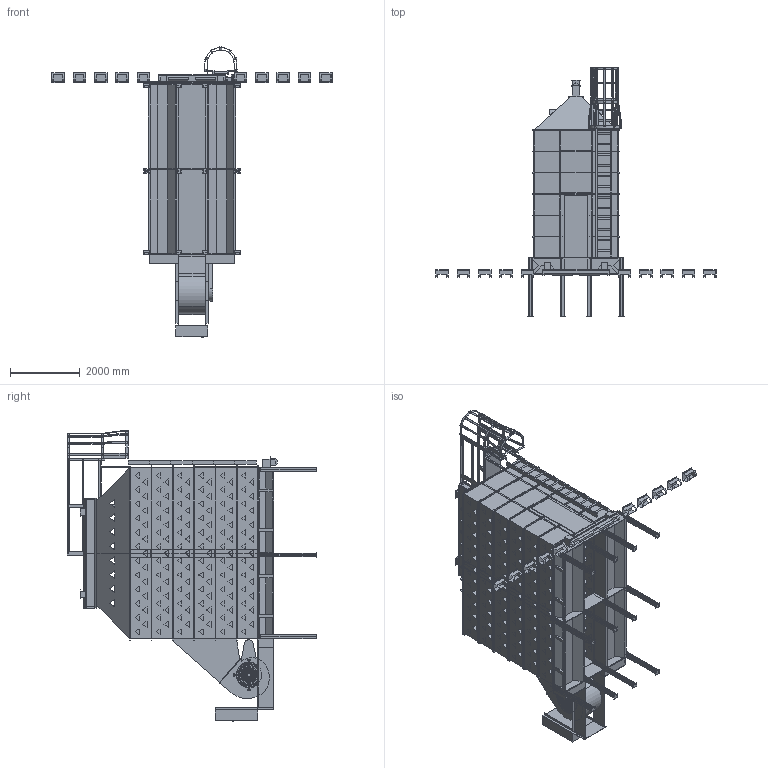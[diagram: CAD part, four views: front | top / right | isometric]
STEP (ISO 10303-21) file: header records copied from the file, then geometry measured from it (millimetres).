
FILE_DESCRIPTION(/* description */ ('PLAN AND ELEVATION VIEW FOR D1680 WITH ROOF & LEVEL AUGER'),/* implementation_level */ '2;1');
FILE_NAME(/* name */ 'C:\Engineering\Designs\Sales\Dryer\Workspaces\D16 All\D1680LA.stp',/* time_stamp */ '2025-01-06T16:42:53-06:00',/* author */ ('max.fleming'),/* organization */ (''),/* preprocessor_version */ 'ST-DEVELOPER v18.1',/* originating_system */ 'Autodesk Inventor 2022',/* authorisation */ '');
FILE_SCHEMA (('AUTOMOTIVE_DESIGN { 1 0 10303 214 3 1 1 }'));
Products named in the file (23): D1680LA; 16FT FRAME; 8FT LHRH FRAME; 16FT ROOF GF; 8FTRoof GF LHRH; 16FT BODY TIER; LH Body; RH Body; LH Body_MIR6; RH Body_MIR6; Outside Splice; Trans & Blower 16FT; Standard Size End Plenum Panels; Ladder 2' section; Level Auger 16'; Level Auger; 8'' Intake; 6'' CROSS AUGER; Short Tongue; Leg Kit-02; 16FT CATWALK; Belt Shield; Screen Guard 16
Assembly tree (47 placements, depth 3):
  D1680LA
    16FT FRAME
      8FT LHRH FRAME  x2
    16FT ROOF GF
      8FTRoof GF LHRH  x2
    16FT BODY TIER  x6
      LH Body
      RH Body
      LH Body_MIR6
      RH Body_MIR6
      Outside Splice
    Leg Kit-02  x12
    Trans & Blower 16FT
    Standard Size End Plenum Panels  x9
    Short Tongue
    16FT CATWALK
    Belt Shield
    Screen Guard 16  x2
  Ladder 2' section
  Level Auger 16'
    Level Auger  x2
  8'' Intake
  6'' CROSS AUGER
Bounding box: 8007.35 x 7120.34 x 8298.27 mm (x, y, z)
Volume: 35025204381.1 mm3; surface area: 481454734.3 mm2
Topology: 100 solids, 100 shells, 6845 faces, 18991 edges, 12442 vertices
Faces by surface type: plane 5192, cylinder 1625, bspline 26, torus 2
Full cylindrical faces by diameter (mm): 15.875 x48, 38.1 x1, 44.45 x14, 95.25 x2, 127 x2
Entity records: 101008 total; most frequent: CARTESIAN_POINT 17933, ORIENTED_EDGE 17540, DIRECTION 16258, EDGE_CURVE 8770, LINE 7286, VECTOR 7286, VERTEX_POINT 5745, AXIS2_PLACEMENT_3D 4486
